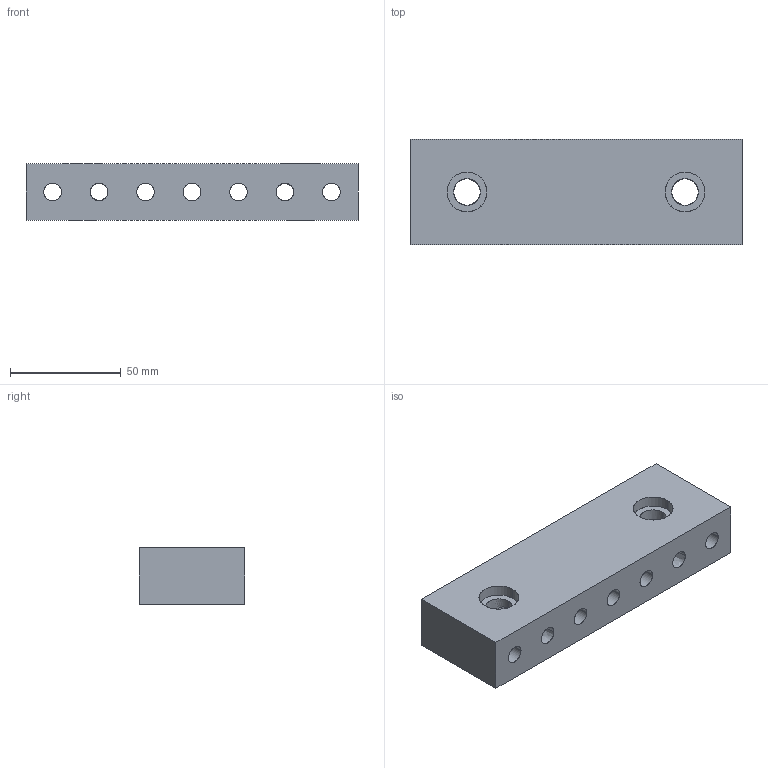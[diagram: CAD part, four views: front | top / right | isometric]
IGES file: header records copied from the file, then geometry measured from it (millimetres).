
Start section: SolidWorks IGES file using analytic representation for surfaces
Global section: file name: C:\Users\liam_\OneDrive\Documents\WORK\Work for WixRoyd\Job Files\J-00028 - Matt Davis CAD - 20191222\Wixroyd20191222\12037_v2\12037_v2_2020102_IGES\Default.igs; native system: SolidWorks 2017; preprocessor: SolidWorks 2017; author: liam_; date: 200102.205301; units: millimetre
Bounding box: 150 x 47.75 x 25.4 mm (x, y, z)
Surface area: 35168.3 mm2 (no closed solid volume)
Topology: 0 solids, 0 shells, 51 faces, 1472 edges, 1472 vertices
Faces by surface type: revolution 36, bspline 15
